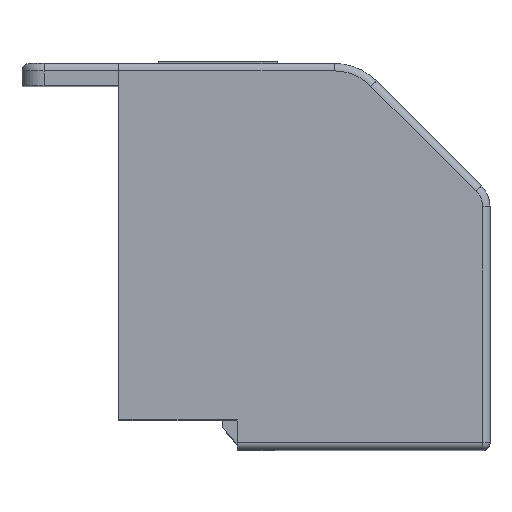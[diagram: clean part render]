
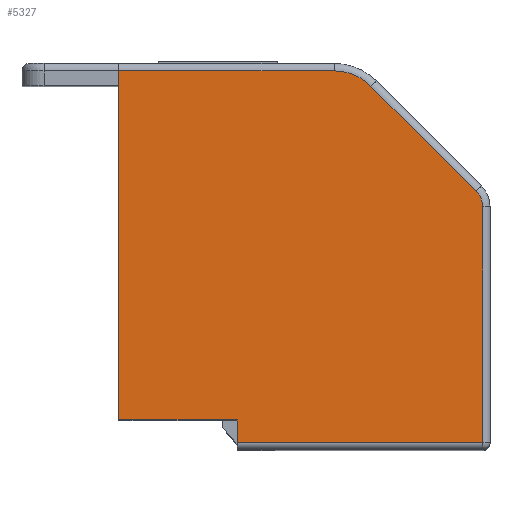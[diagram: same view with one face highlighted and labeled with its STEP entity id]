
A CAD part, top view. The second image highlights one B-rep face of the part: STEP entity #5327.
In plain terms, the highlighted planar face has unit normal (0, 0, 1).
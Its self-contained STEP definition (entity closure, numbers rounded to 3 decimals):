
#6 = CARTESIAN_POINT ( 'NONE',  ( 64.561, 17.404, 13.3 ) ) ;
#117 = CARTESIAN_POINT ( 'NONE',  ( 65., 16.343, 13.3 ) ) ;
#366 = LINE ( 'NONE', #7602, #2203 ) ;
#1107 = CARTESIAN_POINT ( 'NONE',  ( 55.015, 25.5, 13.3 ) ) ;
#1177 = CIRCLE ( 'NONE', #5728, 1.5 ) ;
#1247 = CARTESIAN_POINT ( 'NONE',  ( 44.5, 30., 13.3 ) ) ;
#1322 = ORIENTED_EDGE ( 'NONE', *, *, #9569, .F. ) ;
#1329 = AXIS2_PLACEMENT_3D ( 'NONE', #1247, #4869, #8490 ) ;
#1378 = EDGE_CURVE ( 'NONE', #10910, #2640, #5943, .T. ) ;
#1400 = ORIENTED_EDGE ( 'NONE', *, *, #7783, .T. ) ;
#1568 = VECTOR ( 'NONE', #10378, 1000. ) ;
#2142 = PLANE ( 'NONE',  #1329 ) ;
#2195 = VECTOR ( 'NONE', #9912, 1000. ) ;
#2203 = VECTOR ( 'NONE', #6538, 1000. ) ;
#2315 = DIRECTION ( 'NONE',  ( 0., 1., 0. ) ) ;
#2378 = EDGE_CURVE ( 'NONE', #2640, #6140, #5924, .T. ) ;
#2418 = CARTESIAN_POINT ( 'NONE',  ( 40.5, 2., 13.3 ) ) ;
#2640 = VERTEX_POINT ( 'NONE', #1107 ) ;
#2726 = ORIENTED_EDGE ( 'NONE', *, *, #2378, .T. ) ;
#2877 = LINE ( 'NONE', #5551, #4950 ) ;
#2943 = EDGE_LOOP ( 'NONE', ( #1400, #9425, #5186, #3243, #2726, #1322, #9078, #11028, #4180 ) ) ;
#3243 = ORIENTED_EDGE ( 'NONE', *, *, #1378, .T. ) ;
#3372 = LINE ( 'NONE', #10616, #3524 ) ;
#3524 = VECTOR ( 'NONE', #5808, 1000. ) ;
#3610 = CARTESIAN_POINT ( 'NONE',  ( 65., 0.5, 13.3 ) ) ;
#4180 = ORIENTED_EDGE ( 'NONE', *, *, #9089, .T. ) ;
#4254 = CARTESIAN_POINT ( 'NONE',  ( 55.015, 22., 13.3 ) ) ;
#4869 = DIRECTION ( 'NONE',  ( 0., 0., -1. ) ) ;
#4950 = VECTOR ( 'NONE', #2315, 1000. ) ;
#4993 = AXIS2_PLACEMENT_3D ( 'NONE', #4254, #10480, #6206 ) ;
#5032 = CARTESIAN_POINT ( 'NONE',  ( 55.015, 25.5, 13.3 ) ) ;
#5103 = DIRECTION ( 'NONE',  ( 0., 0., 1. ) ) ;
#5186 = ORIENTED_EDGE ( 'NONE', *, *, #9300, .T. ) ;
#5327 = ADVANCED_FACE ( 'NONE', ( #11163 ), #2142, .F. ) ;
#5328 = VERTEX_POINT ( 'NONE', #11221 ) ;
#5456 = CARTESIAN_POINT ( 'NONE',  ( 57.49, 24.475, 13.3 ) ) ;
#5551 = CARTESIAN_POINT ( 'NONE',  ( 65., 0.5, 13.3 ) ) ;
#5679 = CARTESIAN_POINT ( 'NONE',  ( 48.5, 2., 13.3 ) ) ;
#5728 = AXIS2_PLACEMENT_3D ( 'NONE', #9565, #5103, #6767 ) ;
#5801 = EDGE_CURVE ( 'NONE', #5328, #7318, #7757, .T. ) ;
#5808 = DIRECTION ( 'NONE',  ( 0., 1., 0. ) ) ;
#5924 = LINE ( 'NONE', #5032, #1568 ) ;
#5943 = CIRCLE ( 'NONE', #4993, 3.5 ) ;
#6140 = VERTEX_POINT ( 'NONE', #8388 ) ;
#6175 = DIRECTION ( 'NONE',  ( -0.707, 0.707, 0. ) ) ;
#6206 = DIRECTION ( 'NONE',  ( 0.707, 0.707, 0. ) ) ;
#6288 = CARTESIAN_POINT ( 'NONE',  ( 48.5, 2., 13.3 ) ) ;
#6538 = DIRECTION ( 'NONE',  ( 1., 0., 0. ) ) ;
#6767 = DIRECTION ( 'NONE',  ( 1., 0., 0. ) ) ;
#6904 = VERTEX_POINT ( 'NONE', #11092 ) ;
#7152 = VERTEX_POINT ( 'NONE', #3610 ) ;
#7318 = VERTEX_POINT ( 'NONE', #5679 ) ;
#7602 = CARTESIAN_POINT ( 'NONE',  ( 48.5, 0.5, 13.3 ) ) ;
#7757 = LINE ( 'NONE', #2418, #10982 ) ;
#7783 = EDGE_CURVE ( 'NONE', #7152, #8341, #2877, .T. ) ;
#8085 = EDGE_CURVE ( 'NONE', #8341, #10024, #1177, .T. ) ;
#8130 = LINE ( 'NONE', #6, #8671 ) ;
#8341 = VERTEX_POINT ( 'NONE', #117 ) ;
#8388 = CARTESIAN_POINT ( 'NONE',  ( 40.5, 25.5, 13.3 ) ) ;
#8490 = DIRECTION ( 'NONE',  ( 0., -1., 0. ) ) ;
#8671 = VECTOR ( 'NONE', #6175, 1000. ) ;
#9078 = ORIENTED_EDGE ( 'NONE', *, *, #5801, .T. ) ;
#9089 = EDGE_CURVE ( 'NONE', #6904, #7152, #366, .T. ) ;
#9300 = EDGE_CURVE ( 'NONE', #10024, #10910, #8130, .T. ) ;
#9425 = ORIENTED_EDGE ( 'NONE', *, *, #8085, .T. ) ;
#9565 = CARTESIAN_POINT ( 'NONE',  ( 63.5, 16.343, 13.3 ) ) ;
#9569 = EDGE_CURVE ( 'NONE', #5328, #6140, #3372, .T. ) ;
#9912 = DIRECTION ( 'NONE',  ( 0., -1., 0. ) ) ;
#10024 = VERTEX_POINT ( 'NONE', #11666 ) ;
#10378 = DIRECTION ( 'NONE',  ( -1., 0., 0. ) ) ;
#10480 = DIRECTION ( 'NONE',  ( 0., 0., 1. ) ) ;
#10616 = CARTESIAN_POINT ( 'NONE',  ( 40.5, 2., 13.3 ) ) ;
#10734 = LINE ( 'NONE', #6288, #2195 ) ;
#10910 = VERTEX_POINT ( 'NONE', #5456 ) ;
#10939 = EDGE_CURVE ( 'NONE', #7318, #6904, #10734, .T. ) ;
#10982 = VECTOR ( 'NONE', #11383, 1000. ) ;
#11028 = ORIENTED_EDGE ( 'NONE', *, *, #10939, .T. ) ;
#11092 = CARTESIAN_POINT ( 'NONE',  ( 48.5, 0.5, 13.3 ) ) ;
#11163 = FACE_OUTER_BOUND ( 'NONE', #2943, .T. ) ;
#11221 = CARTESIAN_POINT ( 'NONE',  ( 40.5, 2., 13.3 ) ) ;
#11383 = DIRECTION ( 'NONE',  ( 1., 0., 0. ) ) ;
#11666 = CARTESIAN_POINT ( 'NONE',  ( 64.561, 17.404, 13.3 ) ) ;
